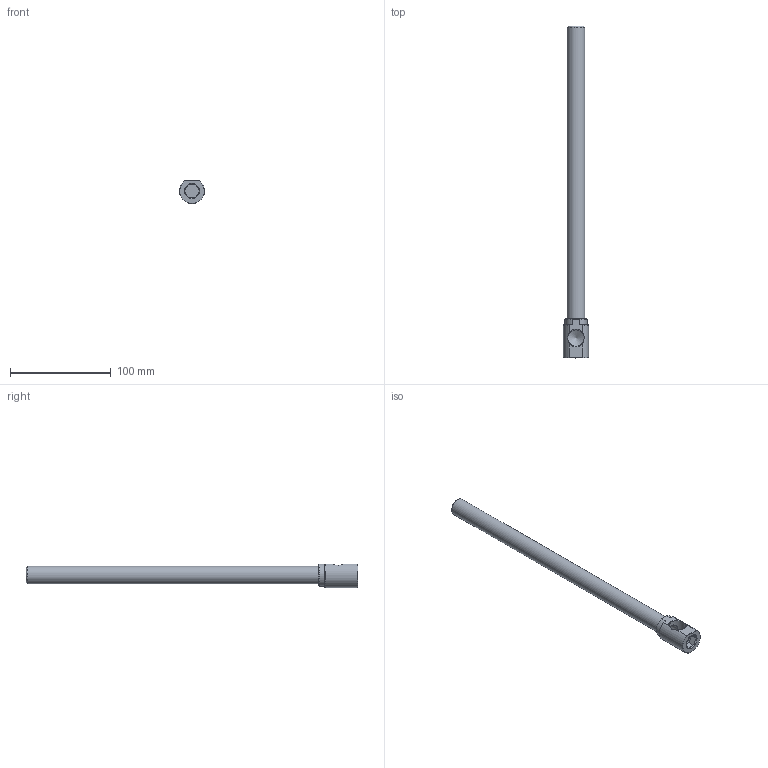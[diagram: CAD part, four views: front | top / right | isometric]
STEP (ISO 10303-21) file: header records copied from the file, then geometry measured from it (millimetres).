
FILE_DESCRIPTION(/* description */ (''),/* implementation_level */ '2;1');
FILE_NAME(/* name */ 'C:/Users/drich/Desktop/EKL38 X 13 v2.step',/* time_stamp */ '2019-11-18T14:42:31-06:00',/* author */ (''),/* organization */ (''),/* preprocessor_version */ 'ST-DEVELOPER v18',/* originating_system */ 'Autodesk Translation Framework v8.12.0.6',/* authorisation */ '');
FILE_SCHEMA (('AUTOMOTIVE_DESIGN { 1 0 10303 214 3 1 1 }'));
Length unit declared in the file: inch
Products named in the file (2): EKL38 X 13; EKL38 X 13_1
Assembly tree (1 placements, depth 2):
  EKL38 X 13
    EKL38 X 13_1
Bounding box: 25.01 x 330.2 x 23.03 mm (x, y, z)
Volume: 47710 mm3; surface area: 32094.5 mm2
Topology: 1 solids, 1 shells, 43 faces, 116 edges, 76 vertices
Faces by surface type: plane 21, cone 11, cylinder 11
Full cylindrical faces by diameter (mm): 11.887 x1, 16.231 x1, 17.328 x1
Entity records: 1463 total; most frequent: CARTESIAN_POINT 345, ORIENTED_EDGE 230, DIRECTION 218, EDGE_CURVE 115, AXIS2_PLACEMENT_3D 81, VERTEX_POINT 76, LINE 56, VECTOR 56
